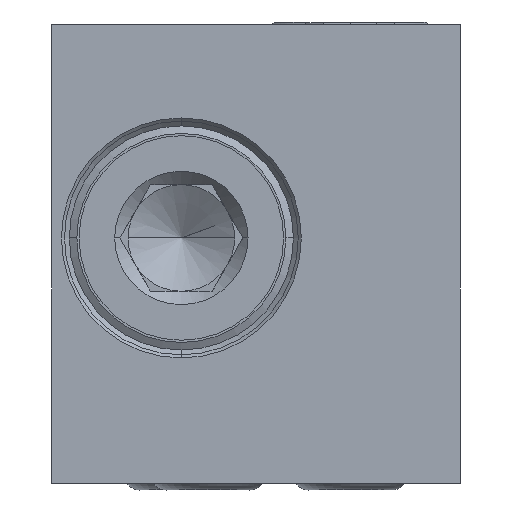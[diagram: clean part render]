
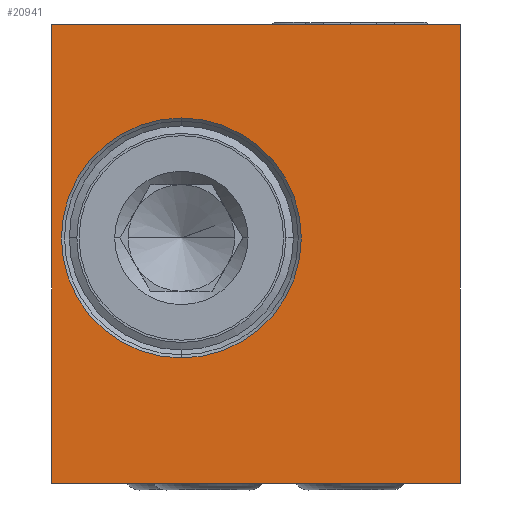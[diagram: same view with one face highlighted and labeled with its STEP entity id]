
A CAD part, left-side view. The second image highlights one B-rep face of the part: STEP entity #20941.
In plain terms, the highlighted planar face has unit normal (-1, 0, 0).
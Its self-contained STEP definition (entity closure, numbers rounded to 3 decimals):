
#3821=DIRECTION('',(0.,0.,1.));
#3822=VECTOR('',#3821,25.8);
#3823=CARTESIAN_POINT('',(-38.,11.5,-12.9));
#3824=LINE('',#3823,#3822);
#3825=DIRECTION('',(0.,-1.,0.));
#3826=VECTOR('',#3825,23.);
#3827=CARTESIAN_POINT('',(-38.,11.5,12.9));
#3828=LINE('',#3827,#3826);
#3829=DIRECTION('',(0.,0.,-1.));
#3830=VECTOR('',#3829,25.8);
#3831=CARTESIAN_POINT('',(-38.,-11.5,12.9));
#3832=LINE('',#3831,#3830);
#3833=DIRECTION('',(0.,1.,0.));
#3834=VECTOR('',#3833,23.);
#3835=CARTESIAN_POINT('',(-38.,-11.5,-12.9));
#3836=LINE('',#3835,#3834);
#3837=CARTESIAN_POINT('',(-38.,4.2,0.9));
#3838=DIRECTION('',(-1.,0.,0.));
#3839=DIRECTION('',(0.,0.,-1.));
#3840=AXIS2_PLACEMENT_3D('',#3837,#3838,#3839);
#3842=CARTESIAN_POINT('',(-38.,4.2,0.9));
#3843=DIRECTION('',(-1.,0.,0.));
#3844=DIRECTION('',(0.,0.,1.));
#3845=AXIS2_PLACEMENT_3D('',#3842,#3843,#3844);
#14371=CARTESIAN_POINT('',(-38.,11.5,12.9));
#14372=VERTEX_POINT('',#14371);
#14373=CARTESIAN_POINT('',(-38.,11.5,-12.9));
#14374=VERTEX_POINT('',#14373);
#14375=CARTESIAN_POINT('',(-38.,-11.5,12.9));
#14376=VERTEX_POINT('',#14375);
#14397=CARTESIAN_POINT('',(-38.,-11.5,-12.9));
#14398=VERTEX_POINT('',#14397);
#14443=CARTESIAN_POINT('',(-38.,4.2,-5.85));
#14444=CARTESIAN_POINT('',(-38.,4.2,7.65));
#14445=VERTEX_POINT('',#14443);
#14446=VERTEX_POINT('',#14444);
#20922=CARTESIAN_POINT('',(-38.,0.,0.));
#20923=DIRECTION('',(-1.,0.,0.));
#20924=DIRECTION('',(0.,-1.,0.));
#20925=AXIS2_PLACEMENT_3D('',#20922,#20923,#20924);
#20926=PLANE('',#20925);
#20927=ORIENTED_EDGE('',*,*,#20915,.T.);
#20928=ORIENTED_EDGE('',*,*,#18817,.T.);
#20930=ORIENTED_EDGE('',*,*,#20929,.T.);
#20932=ORIENTED_EDGE('',*,*,#20931,.T.);
#20933=EDGE_LOOP('',(#20927,#20928,#20930,#20932));
#20934=FACE_OUTER_BOUND('',#20933,.F.);
#20936=ORIENTED_EDGE('',*,*,#20935,.T.);
#20938=ORIENTED_EDGE('',*,*,#20937,.T.);
#20939=EDGE_LOOP('',(#20936,#20938));
#20940=FACE_BOUND('',#20939,.F.);
#20941=ADVANCED_FACE('',(#20934,#20940),#20926,.T.);
#3841=CIRCLE('',#3840,6.75);
#3846=CIRCLE('',#3845,6.75);
#18817=EDGE_CURVE('',#14372,#14376,#3828,.T.);
#20915=EDGE_CURVE('',#14374,#14372,#3824,.T.);
#20929=EDGE_CURVE('',#14376,#14398,#3832,.T.);
#20931=EDGE_CURVE('',#14398,#14374,#3836,.T.);
#20935=EDGE_CURVE('',#14445,#14446,#3841,.T.);
#20937=EDGE_CURVE('',#14446,#14445,#3846,.T.);
